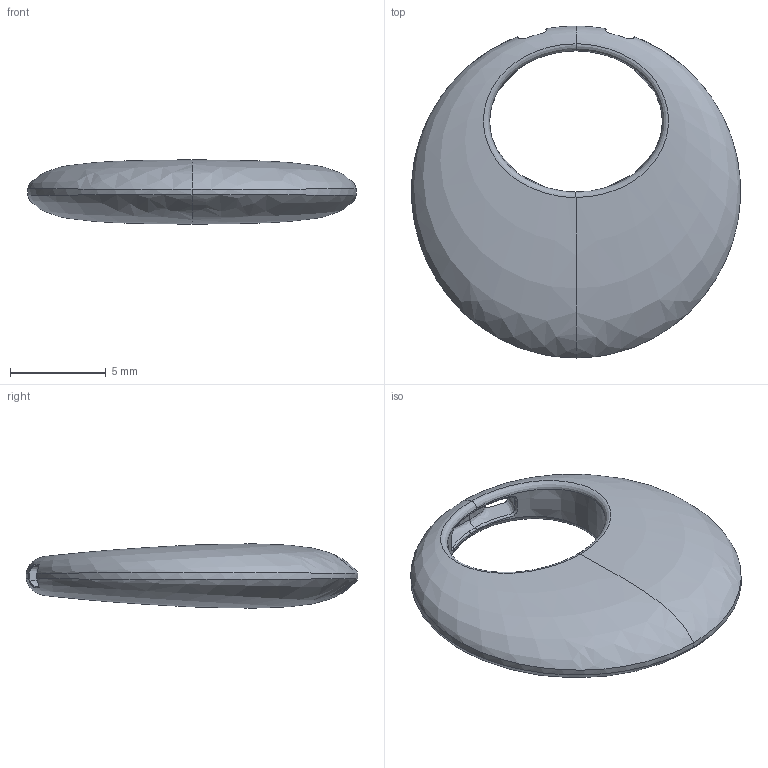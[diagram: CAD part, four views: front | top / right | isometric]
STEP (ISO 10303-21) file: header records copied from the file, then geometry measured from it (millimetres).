
FILE_DESCRIPTION(/* description */ (''),/* implementation_level */ '2;1');
FILE_NAME(/* name */ 'jsc-2027',/* time_stamp */ '2021-07-05T14:32:15+09:00',/* author */ (''),/* organization */ (''),/* preprocessor_version */ 'ST-DEVELOPER v15',/* originating_system */ '',/* authorisation */ '');
FILE_SCHEMA (('AUTOMOTIVE_DESIGN'));
Length unit declared in the file: millimetre
Products named in the file (1): Document
Bounding box: 17.19 x 17.36 x 3.35 mm (x, y, z)
Volume: 447.4 mm3; surface area: 496.5 mm2
Topology: 1 solids, 1 shells, 46 faces, 123 edges, 73 vertices
Faces by surface type: bspline 46
Entity records: 4500 total; most frequent: CARTESIAN_POINT 3787, ORIENTED_EDGE 246, EDGE_CURVE 123, B_SPLINE_CURVE_WITH_KNOTS 78, VERTEX_POINT 73, ADVANCED_FACE 46, FACE_OUTER_BOUND 46, EDGE_LOOP 46
